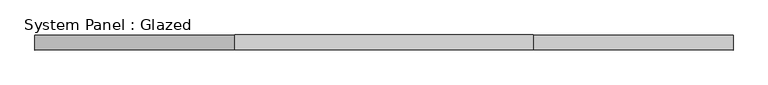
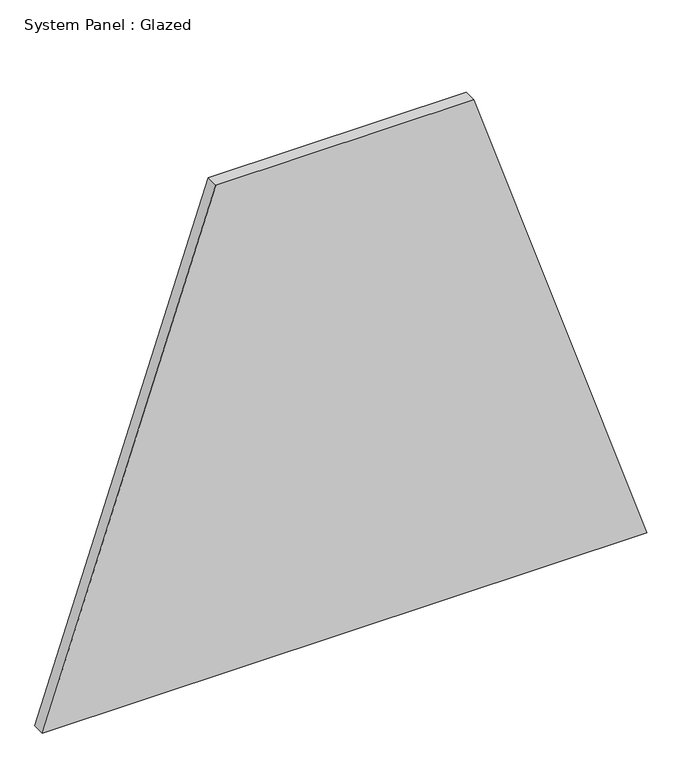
"""IFC4 building model written with IfcOpenShell, lengths in millimetres: plate geometry, System Panel : Glazed."""

from ifc_helpers import new_model, si_unit, frame, origin, place, context, project, spatial, polyline, outline, extrude, source, transform, mapped, element, save


def system_panel_glazed_7876e2aa(model_context):
    return source(origin(), model_context, "Body", "SweptSolid", [
        extrude(outline(polyline([(0.0, -589.5463385), (0.0, 589.5463385), (1011.8817869, 251.6743371), (1011.8817869, -251.6743371), (0.0, -589.5463385)])), frame((0.0, -44.45, 0.0), z_axis=(0.0, 1.0, 0.0), x_axis=(0.0, 0.0, 1.0)), (0.0, 0.0, 1.0), 25.4),
    ])


if __name__ == "__main__":
    model = new_model("IFC4")
    model_context = context("Model", 3, world=origin())
    ifc_project = project(units=[si_unit("LENGTHUNIT", "METRE", prefix="MILLI")], contexts=[model_context])
    site = spatial("IfcSite", under=ifc_project)
    building = spatial("IfcBuilding", under=site)
    placement = place(None, origin())
    system_panel_glazed_shape = system_panel_glazed_7876e2aa(model_context)
    element("IfcPlate", 1, ObjectType="System Panel : Glazed", at=placement, inside=building, context=model_context, shape_type="MappedRepresentation", body=[
        mapped(system_panel_glazed_shape, transform((0.0, 0.0, 0.0), x_axis=(1.0, 0.0, 0.0), y_axis=(0.0, 1.0, 0.0), z_axis=(0.0, 0.0, 1.0))),
    ])
    save(model, "model.ifc")
